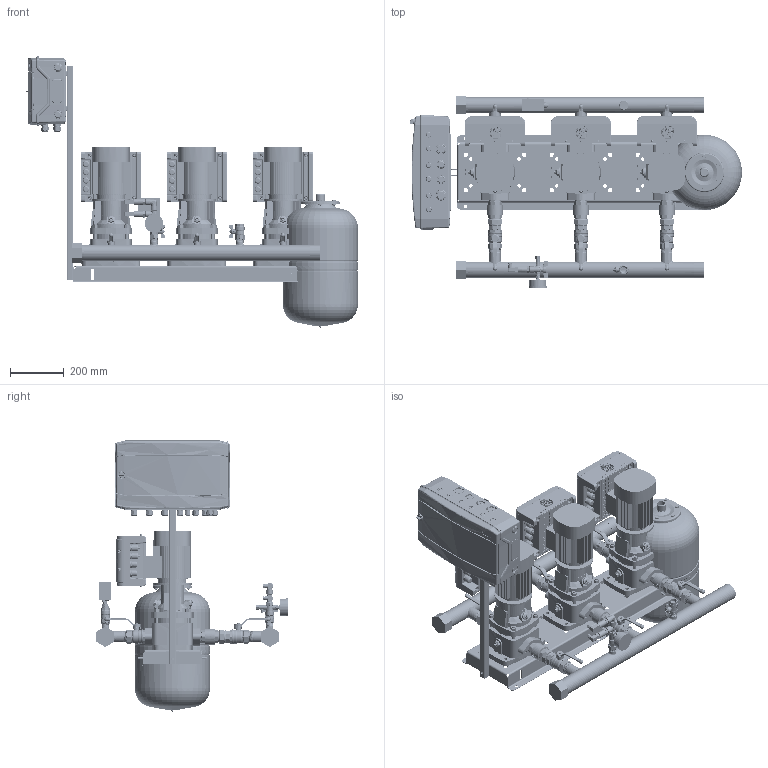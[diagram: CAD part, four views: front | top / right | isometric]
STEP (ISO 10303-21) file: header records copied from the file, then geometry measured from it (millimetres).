
FILE_DESCRIPTION(('CATIA V5 STEP Exchange','CAx-IF Rec.Pracs.--- Model Styling and Organization---1.4--- 2014-01-23','CAx-IF Rec.Pracs.---3D Tessellated Data Validation Properties---0.5---2014-09-14'),'2;1');
FILE_NAME('C:\Users\78432\YandexDisk\Drawings and 3D\3D Hydro Booster\Hydro-ME 3D\Hydro Models\Hydro ME 3 CRV3-xx\Hydro ME 3 CRVE3-3.stp','2023-09-21T08:40:50+00:00',('none'),('none'),'CATIA Version 5-6 Release 2019 SP6','CATIA V5 STEP AP242 v1','none');
FILE_SCHEMA(('AP242_MANAGED_MODEL_BASED_3D_ENGINEERING_MIM_LF {1 0 10303 442 1 1 4}'));
Products named in the file (46): Hydro ME 3 CRVE3-3; 92051012; CRV3-3 Set; CRV 3-3_A_Oval_0.37kW; Base; Oval Flange.1; Oval Flange.2; Sleeve; Pumphead; Staybolt.1; Staybolt.2; Staybolt.3; Staybolt.4; Plug; AirVent; Motor; 92807543_9022-04; Hydraulica NY DN32 1,25 PN16; DN32_FM_LV_47.303.32; 92814060_9013-04; SAJ PDH30 0,75-2,2kW; 97941451; 405801; 91040265; 91040272; 97941488; 00ID7526; Holder and CP 18mod; 92878909; Control ME (18mod); 2 sensors + manometer cpl.; manometr 16 bar; RPD-I-G1_2; 9021-01; 2070 1/2-1/2; _2020 1/2-1/2; 98594078; Tank 24L cpl.; DN20_FF_BF_47.300.20; WAV-24(D140 1'')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
Assembly tree (55 placements, depth 4):
  Hydro ME 3 CRVE3-3
    92051012
    CRV3-3 Set  x3
      CRV 3-3_A_Oval_0.37kW
        Base
        Oval Flange.1
        Oval Flange.2
        Sleeve
        Pumphead
        Staybolt.1
        Staybolt.2
        Staybolt.3
        Staybolt.4
        Plug
        AirVent
        Motor
      92807543_9022-04
      Hydraulica NY DN32 1,25 PN16
      DN32_FM_LV_47.303.32
      92814060_9013-04
      SAJ PDH30 0,75-2,2kW
    97941451  x2
      405801
      91040265
      91040272
      97941488
    00ID7526  x2
    Holder and CP 18mod
      92878909
      Control ME (18mod)
    2 sensors + manometer cpl.
      manometr 16 bar
      RPD-I-G1_2  x2
      9021-01
      2070 1/2-1/2
      _2020 1/2-1/2
      98594078
    Tank 24L cpl.
      DN20_FF_BF_47.300.20
      9021-03
    Relay cpl.
      Relay RD-2R
      DN20_FF_BF_47.300.20
      2530 3/4-1/2
      _2530 1/2-1/4
    91078139
  WAV-24(D140 1'')
Bounding box: 1236.82 x 712 x 1009.9 mm (x, y, z)
Volume: 53732777.2 mm3; surface area: 6728090.6 mm2
Topology: 215 solids, 251 shells, 24622 faces, 71863 edges, 48120 vertices
Faces by surface type: plane 10965, cylinder 6026, bspline 5529, cone 1553, torus 384, sphere 165
Entity records: 542620 total; most frequent: CARTESIAN_POINT 268318, ORIENTED_EDGE 70159, EDGE_CURVE 35561, DIRECTION 33140, VERTEX_POINT 23680, VECTOR 15487, LINE 15487, EDGE_LOOP 13893
